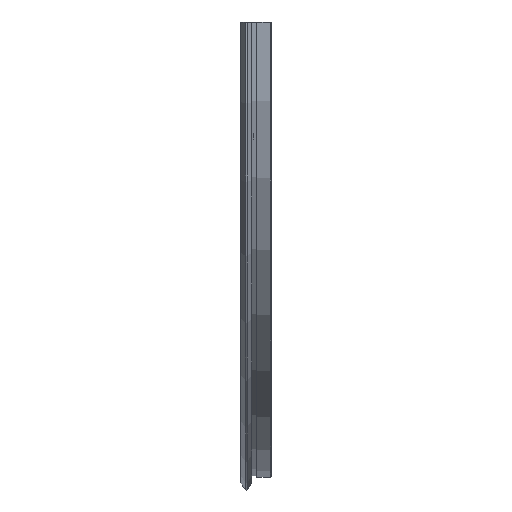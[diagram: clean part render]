
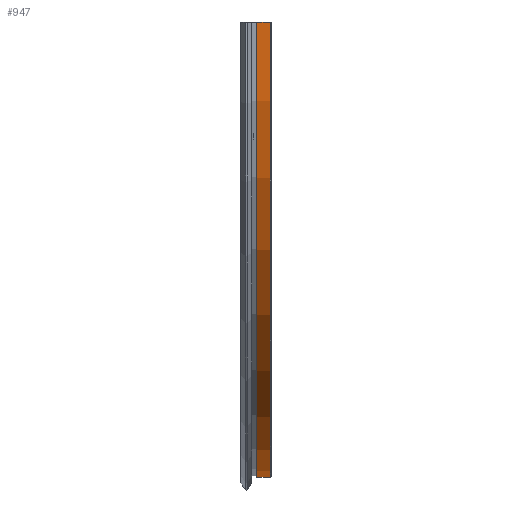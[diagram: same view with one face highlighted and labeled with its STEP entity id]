
A CAD part, left-side view. The second image highlights one B-rep face of the part: STEP entity #947.
In plain terms, the highlighted cylindrical face has radius 183 mm (diameter 366 mm), a partial arc.
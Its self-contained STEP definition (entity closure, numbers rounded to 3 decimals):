
#947 = ADVANCED_FACE( '', ( #2731 ), #2732, .T. );
#2731 = FACE_OUTER_BOUND( '', #4516, .T. );
#2732 = CYLINDRICAL_SURFACE( '', #4517, 183. );
#4516 = EDGE_LOOP( '', ( #12270, #12271, #12272, #12273 ) );
#4517 = AXIS2_PLACEMENT_3D( '', #12274, #12275, #12276 );
#12270 = ORIENTED_EDGE( '', *, *, #13972, .F. );
#12271 = ORIENTED_EDGE( '', *, *, #14865, .T. );
#12272 = ORIENTED_EDGE( '', *, *, #14863, .T. );
#12273 = ORIENTED_EDGE( '', *, *, #13965, .T. );
#12274 = CARTESIAN_POINT( '', ( 0., 0., 0. ) );
#12275 = DIRECTION( '', ( 0., 1., 0. ) );
#12276 = DIRECTION( '', ( 0., 0., -1. ) );
#13965 = EDGE_CURVE( '', #18215, #18213, #18216, .T. );
#13972 = EDGE_CURVE( '', #18228, #18213, #18229, .T. );
#14863 = EDGE_CURVE( '', #19162, #18215, #19163, .T. );
#14865 = EDGE_CURVE( '', #18228, #19162, #19165, .F. );
#18213 = VERTEX_POINT( '', #24854 );
#18215 = VERTEX_POINT( '', #24859 );
#18216 = LINE( '', #24860, #24861 );
#18228 = VERTEX_POINT( '', #24891 );
#18229 = CIRCLE( '', #24892, 183. );
#19162 = VERTEX_POINT( '', #25854 );
#19163 = CIRCLE( '', #25855, 183. );
#19165 = LINE( '', #25858, #25859 );
#24854 = CARTESIAN_POINT( '', ( 182.997, 0.5, -1. ) );
#24859 = CARTESIAN_POINT( '', ( 182.997, 5.75, -1. ) );
#24860 = CARTESIAN_POINT( '', ( 182.997, 0., -1. ) );
#24861 = VECTOR( '', #27199, 1000. );
#24891 = CARTESIAN_POINT( '', ( -182.997, 0.5, -1. ) );
#24892 = AXIS2_PLACEMENT_3D( '', #27203, #27204, #27205 );
#25854 = CARTESIAN_POINT( '', ( -182.997, 5.75, -1. ) );
#25855 = AXIS2_PLACEMENT_3D( '', #29839, #29840, #29841 );
#25858 = CARTESIAN_POINT( '', ( -182.997, 0., -1. ) );
#25859 = VECTOR( '', #29843, 1000. );
#27199 = DIRECTION( '', ( 0., -1., 0. ) );
#27203 = CARTESIAN_POINT( '', ( 0., 0.5, 0. ) );
#27204 = DIRECTION( '', ( 0., -1., 0. ) );
#27205 = DIRECTION( '', ( 0., 0., -1. ) );
#29839 = CARTESIAN_POINT( '', ( 0., 5.75, 0. ) );
#29840 = DIRECTION( '', ( 0., -1., 0. ) );
#29841 = DIRECTION( '', ( 0., 0., -1. ) );
#29843 = DIRECTION( '', ( 0., -1., 0. ) );
